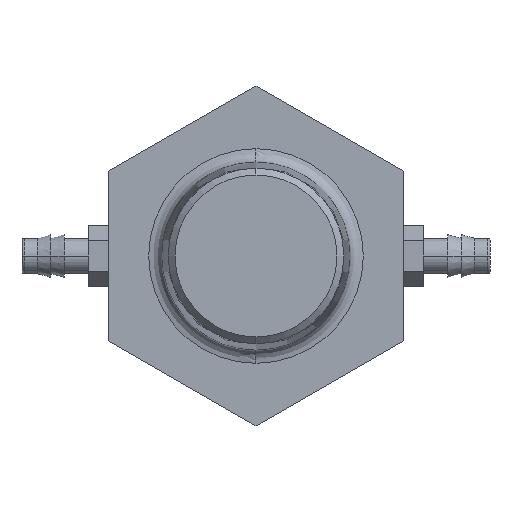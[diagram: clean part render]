
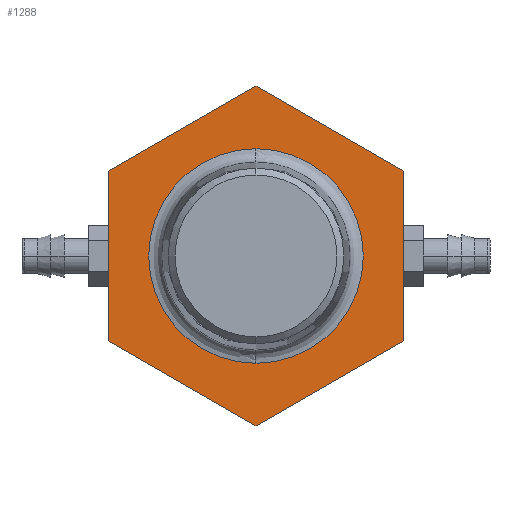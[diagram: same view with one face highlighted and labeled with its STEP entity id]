
A CAD part, left-side view. The second image highlights one B-rep face of the part: STEP entity #1288.
In plain terms, the highlighted planar face has unit normal (-1, 0, 0).
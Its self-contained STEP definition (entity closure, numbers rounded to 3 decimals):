
#1114=CARTESIAN_POINT('',(-2.75,0.0,0.501));
#1115=VERTEX_POINT('',#1114);
#1125=CARTESIAN_POINT('',(-2.75,0.,-0.501));
#1126=VERTEX_POINT('',#1125);
#1127=CARTESIAN_POINT('',(-2.75,0.0,0.0));
#1128=DIRECTION('',(-1.0,0.0,0.0));
#1129=DIRECTION('',(0.0,0.0,1.0));
#1130=AXIS2_PLACEMENT_3D('',#1127,#1128,#1129);
#1131=CIRCLE('',#1130,0.501);
#1132=EDGE_CURVE('',#1115,#1126,#1131,.T.);
#1223=CARTESIAN_POINT('',(-2.75,0.,0.0));
#1224=DIRECTION('',(-1.0,0.0,0.0));
#1225=DIRECTION('',(0.0,0.0,1.0));
#1226=AXIS2_PLACEMENT_3D('',#1223,#1224,#1225);
#1227=PLANE('',#1226);
#1228=CARTESIAN_POINT('',(-2.75,0.688,0.397));
#1229=VERTEX_POINT('',#1228);
#1230=CARTESIAN_POINT('',(-2.75,0.0,0.794));
#1231=VERTEX_POINT('',#1230);
#1232=CARTESIAN_POINT('',(-2.75,0.688,0.397));
#1233=DIRECTION('',(0.0,-0.866,0.5));
#1234=VECTOR('',#1233,0.794);
#1235=LINE('',#1232,#1234);
#1236=EDGE_CURVE('',#1229,#1231,#1235,.T.);
#1237=ORIENTED_EDGE('',*,*,#1236,.F.);
#1238=CARTESIAN_POINT('',(-2.75,0.688,-0.397));
#1239=VERTEX_POINT('',#1238);
#1240=CARTESIAN_POINT('',(-2.75,0.688,-0.397));
#1241=DIRECTION('',(0.0,0.0,1.0));
#1242=VECTOR('',#1241,0.794);
#1243=LINE('',#1240,#1242);
#1244=EDGE_CURVE('',#1239,#1229,#1243,.T.);
#1245=ORIENTED_EDGE('',*,*,#1244,.F.);
#1246=CARTESIAN_POINT('',(-2.75,0.,-0.794));
#1247=VERTEX_POINT('',#1246);
#1248=CARTESIAN_POINT('',(-2.75,0.,-0.794));
#1249=DIRECTION('',(0.0,0.866,0.5));
#1250=VECTOR('',#1249,0.794);
#1251=LINE('',#1248,#1250);
#1252=EDGE_CURVE('',#1247,#1239,#1251,.T.);
#1253=ORIENTED_EDGE('',*,*,#1252,.F.);
#1254=CARTESIAN_POINT('',(-2.75,-0.688,-0.397));
#1255=VERTEX_POINT('',#1254);
#1256=CARTESIAN_POINT('',(-2.75,-0.688,-0.397));
#1257=DIRECTION('',(0.0,0.866,-0.5));
#1258=VECTOR('',#1257,0.794);
#1259=LINE('',#1256,#1258);
#1260=EDGE_CURVE('',#1255,#1247,#1259,.T.);
#1261=ORIENTED_EDGE('',*,*,#1260,.F.);
#1262=CARTESIAN_POINT('',(-2.75,-0.688,0.397));
#1263=VERTEX_POINT('',#1262);
#1264=CARTESIAN_POINT('',(-2.75,-0.688,0.397));
#1265=DIRECTION('',(0.0,0.0,-1.0));
#1266=VECTOR('',#1265,0.794);
#1267=LINE('',#1264,#1266);
#1268=EDGE_CURVE('',#1263,#1255,#1267,.T.);
#1269=ORIENTED_EDGE('',*,*,#1268,.F.);
#1270=CARTESIAN_POINT('',(-2.75,0.0,0.794));
#1271=DIRECTION('',(0.0,-0.866,-0.5));
#1272=VECTOR('',#1271,0.794);
#1273=LINE('',#1270,#1272);
#1274=EDGE_CURVE('',#1231,#1263,#1273,.T.);
#1275=ORIENTED_EDGE('',*,*,#1274,.F.);
#1276=EDGE_LOOP('',(#1237,#1245,#1253,#1261,#1269,#1275));
#1277=FACE_OUTER_BOUND('',#1276,.T.);
#1278=ORIENTED_EDGE('',*,*,#1132,.F.);
#1279=CARTESIAN_POINT('',(-2.75,0.0,0.0));
#1280=DIRECTION('',(-1.0,0.0,0.0));
#1281=DIRECTION('',(0.0,0.0,1.0));
#1282=AXIS2_PLACEMENT_3D('',#1279,#1280,#1281);
#1283=CIRCLE('',#1282,0.501);
#1284=EDGE_CURVE('',#1126,#1115,#1283,.T.);
#1285=ORIENTED_EDGE('',*,*,#1284,.F.);
#1286=EDGE_LOOP('',(#1278,#1285));
#1287=FACE_BOUND('',#1286,.T.);
#1288=ADVANCED_FACE('',(#1277,#1287),#1227,.T.);
